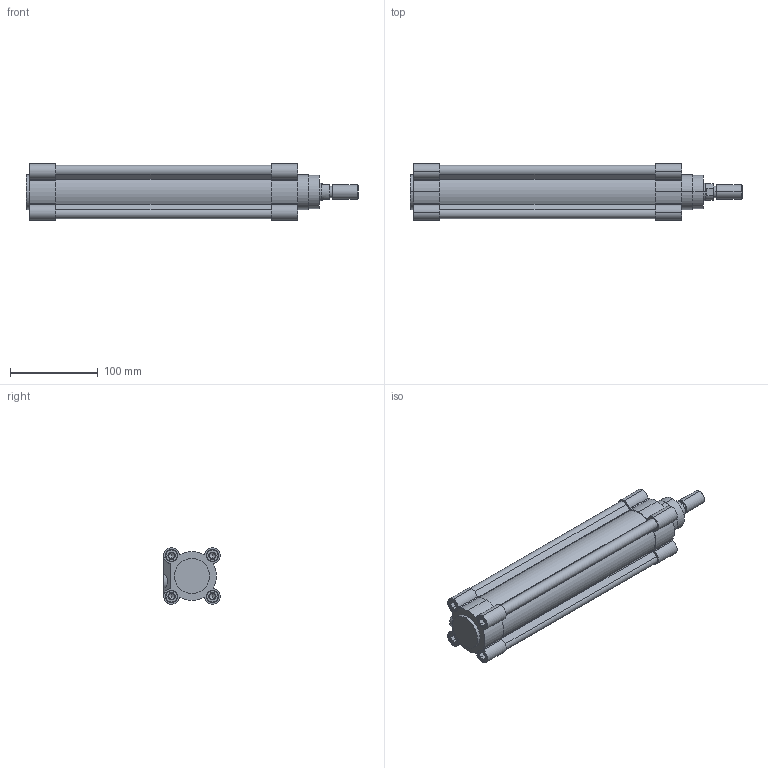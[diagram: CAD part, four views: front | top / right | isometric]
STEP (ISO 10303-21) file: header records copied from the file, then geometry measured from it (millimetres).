
FILE_DESCRIPTION (( 'STEP AP203' ), '1' );
FILE_NAME ('CPME50-200-I.STEP', '2024-09-03T11:32:36', ( '' ), ( '' ), 'SwSTEP 2.0', 'SolidWorks 2019', '' );
FILE_SCHEMA (( 'CONFIG_CONTROL_DESIGN' ));
Length unit declared in the file: millimetre
Products named in the file (1): CPME50-200-I
Bounding box: 379 x 64.5 x 64.5 mm (x, y, z)
Volume: 634732.8 mm3; surface area: 199062.6 mm2
Topology: 4 solids, 4 shells, 390 faces, 959 edges, 594 vertices
Faces by surface type: plane 181, cylinder 165, cone 44
Entity records: 11486 total; most frequent: DIRECTION 2099, CARTESIAN_POINT 1994, ORIENTED_EDGE 1878, EDGE_CURVE 939, AXIS2_PLACEMENT_3D 779, VERTEX_POINT 594, LINE 541, VECTOR 541
